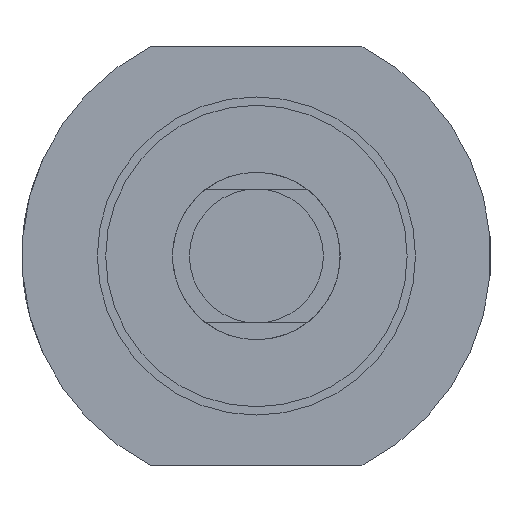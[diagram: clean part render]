
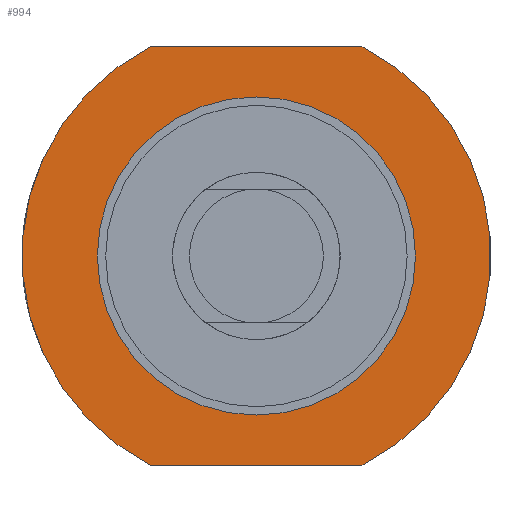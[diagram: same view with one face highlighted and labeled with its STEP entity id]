
A CAD part, left-side view. The second image highlights one B-rep face of the part: STEP entity #994.
In plain terms, the highlighted planar face has unit normal (-1, 0, 0).
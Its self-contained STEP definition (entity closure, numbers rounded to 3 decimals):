
#44 = EDGE_CURVE ( 'NONE', #788, #726, #1584, .T. ) ;
#61 = CARTESIAN_POINT ( 'NONE',  ( 59., -6.305, -12.5 ) ) ;
#124 = EDGE_LOOP ( 'NONE', ( #1574, #1399 ) ) ;
#236 = CARTESIAN_POINT ( 'NONE',  ( 59., 0., -14. ) ) ;
#268 = CARTESIAN_POINT ( 'NONE',  ( 59., 0., 9.5 ) ) ;
#289 = FACE_OUTER_BOUND ( 'NONE', #555, .T. ) ;
#325 = CARTESIAN_POINT ( 'NONE',  ( 59., 0., 0. ) ) ;
#356 = EDGE_CURVE ( 'NONE', #579, #1347, #1114, .T. ) ;
#398 = CARTESIAN_POINT ( 'NONE',  ( 59., 11.874, -12.5 ) ) ;
#400 = AXIS2_PLACEMENT_3D ( 'NONE', #1207, #1156, #1604 ) ;
#419 = DIRECTION ( 'NONE',  ( 1., 0., 0. ) ) ;
#449 = EDGE_CURVE ( 'NONE', #719, #1335, #694, .T. ) ;
#453 = CIRCLE ( 'NONE', #400, 9.5 ) ;
#478 = ORIENTED_EDGE ( 'NONE', *, *, #822, .F. ) ;
#485 = DIRECTION ( 'NONE',  ( 0., 0., 1. ) ) ;
#523 = DIRECTION ( 'NONE',  ( 0., 0., 1. ) ) ;
#555 = EDGE_LOOP ( 'NONE', ( #1244, #478, #1378, #1423 ) ) ;
#565 = CARTESIAN_POINT ( 'NONE',  ( 59., 0., 0. ) ) ;
#579 = VERTEX_POINT ( 'NONE', #1383 ) ;
#612 = DIRECTION ( 'NONE',  ( 0., 1., 0. ) ) ;
#622 = DIRECTION ( 'NONE',  ( 0., 0., 1. ) ) ;
#694 = CIRCLE ( 'NONE', #809, 14. ) ;
#712 = DIRECTION ( 'NONE',  ( -1., 0., 0. ) ) ;
#719 = VERTEX_POINT ( 'NONE', #769 ) ;
#726 = VERTEX_POINT ( 'NONE', #1301 ) ;
#732 = PLANE ( 'NONE',  #1055 ) ;
#769 = CARTESIAN_POINT ( 'NONE',  ( 59., 6.305, 12.5 ) ) ;
#788 = VERTEX_POINT ( 'NONE', #61 ) ;
#809 = AXIS2_PLACEMENT_3D ( 'NONE', #325, #712, #523 ) ;
#816 = DIRECTION ( 'NONE',  ( 0., -1., 0. ) ) ;
#822 = EDGE_CURVE ( 'NONE', #788, #1335, #1337, .T. ) ;
#846 = CARTESIAN_POINT ( 'NONE',  ( 59., 11.874, 12.5 ) ) ;
#887 = CARTESIAN_POINT ( 'NONE',  ( 59., 0., 0. ) ) ;
#953 = CARTESIAN_POINT ( 'NONE',  ( 59., 6.305, -12.5 ) ) ;
#994 = ADVANCED_FACE ( 'NONE', ( #1073, #289 ), #732, .F. ) ;
#1021 = DIRECTION ( 'NONE',  ( -1., 0., 0. ) ) ;
#1054 = VECTOR ( 'NONE', #816, 1000. ) ;
#1055 = AXIS2_PLACEMENT_3D ( 'NONE', #236, #419, #1488 ) ;
#1073 = FACE_BOUND ( 'NONE', #124, .T. ) ;
#1114 = CIRCLE ( 'NONE', #1530, 9.5 ) ;
#1156 = DIRECTION ( 'NONE',  ( -1., 0., 0. ) ) ;
#1207 = CARTESIAN_POINT ( 'NONE',  ( 59., 0., 0. ) ) ;
#1238 = AXIS2_PLACEMENT_3D ( 'NONE', #887, #1350, #622 ) ;
#1244 = ORIENTED_EDGE ( 'NONE', *, *, #449, .T. ) ;
#1301 = CARTESIAN_POINT ( 'NONE',  ( 59., -6.305, 12.5 ) ) ;
#1335 = VERTEX_POINT ( 'NONE', #953 ) ;
#1337 = LINE ( 'NONE', #398, #1353 ) ;
#1347 = VERTEX_POINT ( 'NONE', #268 ) ;
#1350 = DIRECTION ( 'NONE',  ( -1., 0., 0. ) ) ;
#1353 = VECTOR ( 'NONE', #612, 1000. ) ;
#1378 = ORIENTED_EDGE ( 'NONE', *, *, #44, .T. ) ;
#1383 = CARTESIAN_POINT ( 'NONE',  ( 59., 0., -9.5 ) ) ;
#1399 = ORIENTED_EDGE ( 'NONE', *, *, #356, .F. ) ;
#1423 = ORIENTED_EDGE ( 'NONE', *, *, #1450, .F. ) ;
#1450 = EDGE_CURVE ( 'NONE', #719, #726, #1499, .T. ) ;
#1488 = DIRECTION ( 'NONE',  ( 0., 0., -1. ) ) ;
#1495 = EDGE_CURVE ( 'NONE', #1347, #579, #453, .T. ) ;
#1499 = LINE ( 'NONE', #846, #1054 ) ;
#1530 = AXIS2_PLACEMENT_3D ( 'NONE', #565, #1021, #485 ) ;
#1574 = ORIENTED_EDGE ( 'NONE', *, *, #1495, .F. ) ;
#1584 = CIRCLE ( 'NONE', #1238, 14. ) ;
#1604 = DIRECTION ( 'NONE',  ( 0., 0., 1. ) ) ;
